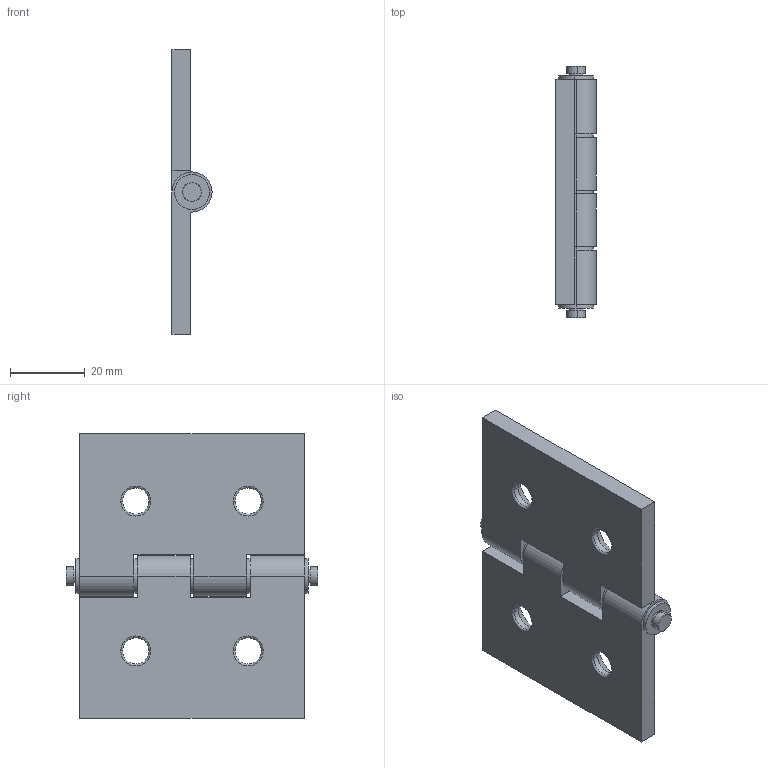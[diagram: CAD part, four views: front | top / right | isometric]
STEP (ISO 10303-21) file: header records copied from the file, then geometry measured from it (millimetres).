
FILE_DESCRIPTION (( 'STEP AP203' ), '1' );
FILE_NAME ('HD40.STEP', '2024-02-19T12:23:48', ( '' ), ( '' ), 'SwSTEP 2.0', 'SolidWorks 2022', '' );
FILE_SCHEMA (( 'CONFIG_CONTROL_DESIGN' ));
Length unit declared in the file: millimetre
Products named in the file (1): HD40
Bounding box: 10.7 x 67 x 76 mm (x, y, z)
Volume: 24211.7 mm3; surface area: 14480.2 mm2
Topology: 8 solids, 8 shells, 110 faces, 254 edges, 164 vertices
Faces by surface type: cylinder 58, plane 36, torus 8, cone 8
Entity records: 3285 total; most frequent: DIRECTION 616, CARTESIAN_POINT 529, ORIENTED_EDGE 508, EDGE_CURVE 254, AXIS2_PLACEMENT_3D 251, VERTEX_POINT 164, EDGE_LOOP 140, CIRCLE 140
